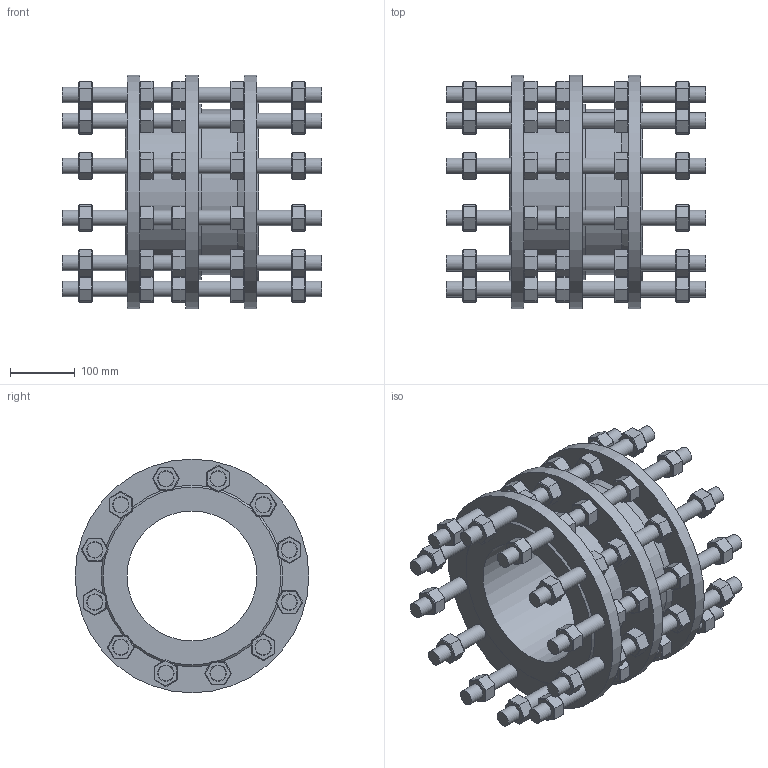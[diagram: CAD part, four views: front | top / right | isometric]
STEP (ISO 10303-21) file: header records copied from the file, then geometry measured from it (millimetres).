
FILE_DESCRIPTION (( 'STEP AP203' ), '1' );
FILE_NAME ('873020000741000.STEP', '2021-11-05T08:40:30', ( '' ), ( '' ), 'SwSTEP 2.0', 'SolidWorks 2020', '' );
FILE_SCHEMA (( 'CONFIG_CONTROL_DESIGN' ));
Length unit declared in the file: millimetre
Products named in the file (1): 873020000741000
Bounding box: 400 x 360 x 360 mm (x, y, z)
Volume: 9064687.8 mm3; surface area: 1279810.7 mm2
Topology: 61 solids, 61 shells, 1471 faces, 3159 edges, 1841 vertices
Faces by surface type: plane 1233, cone 123, cylinder 115
Full cylindrical faces by diameter (mm): 24 x108, 200 x1, 230 x1, 255 x1, 271 x1, 360 x3
Entity records: 36921 total; most frequent: DIRECTION 6174, CARTESIAN_POINT 6142, ORIENTED_EDGE 5750, EDGE_CURVE 2875, LINE 2520, VECTOR 2520, EDGE_LOOP 1910, AXIS2_PLACEMENT_3D 1827
